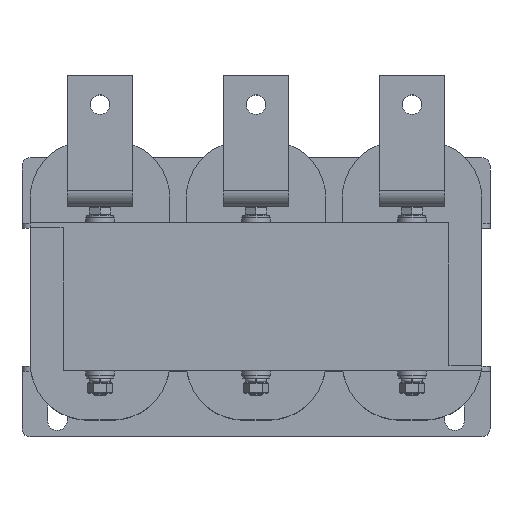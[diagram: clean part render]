
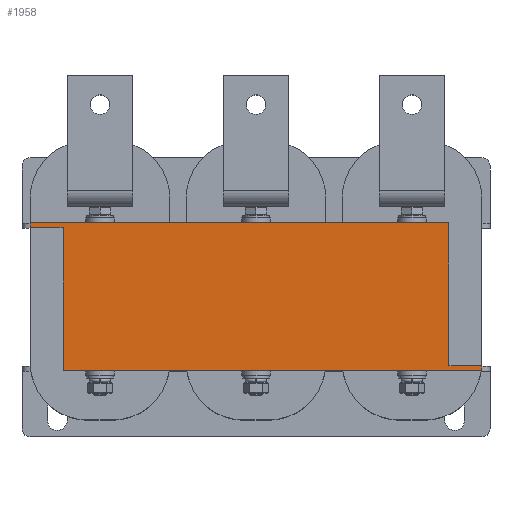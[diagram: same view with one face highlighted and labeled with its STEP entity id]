
A CAD part, top view. The second image highlights one B-rep face of the part: STEP entity #1958.
In plain terms, the highlighted planar face has unit normal (0, 0, 1).
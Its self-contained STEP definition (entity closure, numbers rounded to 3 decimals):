
#1958=ADVANCED_FACE('',(#2667),#2669,.T.);
#2667=FACE_BOUND('',#2668,.T.);
#2668=EDGE_LOOP('',(#3516,#3517,#3518,#3519,#3520,#3521,#3522,#3523));
#2669=PLANE('',#2670);
#2670=AXIS2_PLACEMENT_3D('',#2671,#2672,#2673);
#2671=CARTESIAN_POINT('',(0.,0.,47.));
#2672=DIRECTION('',(0.,0.,1.));
#2673=DIRECTION('',(-1.,0.,0.));
#3516=ORIENTED_EDGE('',*,*,#3920,.T.);
#3517=ORIENTED_EDGE('',*,*,#3939,.T.);
#3518=ORIENTED_EDGE('',*,*,#3909,.T.);
#3519=ORIENTED_EDGE('',*,*,#3940,.T.);
#3520=ORIENTED_EDGE('',*,*,#3901,.T.);
#3521=ORIENTED_EDGE('',*,*,#3941,.T.);
#3522=ORIENTED_EDGE('',*,*,#3890,.T.);
#3523=ORIENTED_EDGE('',*,*,#3938,.T.);
#3890=EDGE_CURVE('',#4304,#4302,#4305,.T.);
#3901=EDGE_CURVE('',#4326,#4324,#4327,.T.);
#3909=EDGE_CURVE('',#4342,#4340,#4343,.T.);
#3920=EDGE_CURVE('',#4364,#4362,#4365,.T.);
#3938=EDGE_CURVE('',#4302,#4364,#4387,.T.);
#3939=EDGE_CURVE('',#4362,#4342,#4388,.T.);
#3940=EDGE_CURVE('',#4340,#4326,#4389,.T.);
#3941=EDGE_CURVE('',#4324,#4304,#4390,.T.);
#4302=VERTEX_POINT('',#5168);
#4304=VERTEX_POINT('',#5172);
#4305=LINE('',#5173,#5174);
#4324=VERTEX_POINT('',#5217);
#4326=VERTEX_POINT('',#5221);
#4327=LINE('',#5222,#5223);
#4340=VERTEX_POINT('',#5251);
#4342=VERTEX_POINT('',#5255);
#4343=LINE('',#5256,#5257);
#4362=VERTEX_POINT('',#5300);
#4364=VERTEX_POINT('',#5304);
#4365=LINE('',#5305,#5306);
#4387=LINE('',#5365,#5366);
#4388=LINE('',#5368,#5369);
#4389=LINE('',#5371,#5372);
#4390=LINE('',#5374,#5375);
#5168=CARTESIAN_POINT('',(-137.5,45.,47.));
#5172=CARTESIAN_POINT('',(117.5,45.,47.));
#5173=CARTESIAN_POINT('',(117.5,45.,47.));
#5174=VECTOR('',#5175,1.);
#5175=DIRECTION('',(-1.,0.,0.));
#5217=CARTESIAN_POINT('',(117.5,-42.,47.));
#5221=CARTESIAN_POINT('',(137.5,-42.,47.));
#5222=CARTESIAN_POINT('',(137.5,-42.,47.));
#5223=VECTOR('',#5224,1.);
#5224=DIRECTION('',(-1.,0.,0.));
#5251=CARTESIAN_POINT('',(137.5,-45.,47.));
#5255=CARTESIAN_POINT('',(-117.5,-45.,47.));
#5256=CARTESIAN_POINT('',(-117.5,-45.,47.));
#5257=VECTOR('',#5258,1.);
#5258=DIRECTION('',(1.,0.,0.));
#5300=CARTESIAN_POINT('',(-117.5,42.,47.));
#5304=CARTESIAN_POINT('',(-137.5,42.,47.));
#5305=CARTESIAN_POINT('',(-137.5,42.,47.));
#5306=VECTOR('',#5307,1.);
#5307=DIRECTION('',(1.,0.,0.));
#5365=CARTESIAN_POINT('',(-137.5,45.,47.));
#5366=VECTOR('',#5367,1.);
#5367=DIRECTION('',(0.,-1.,0.));
#5368=CARTESIAN_POINT('',(-117.5,42.,47.));
#5369=VECTOR('',#5370,1.);
#5370=DIRECTION('',(0.,-1.,0.));
#5371=CARTESIAN_POINT('',(137.5,-45.,47.));
#5372=VECTOR('',#5373,1.);
#5373=DIRECTION('',(0.,1.,0.));
#5374=CARTESIAN_POINT('',(117.5,-42.,47.));
#5375=VECTOR('',#5376,1.);
#5376=DIRECTION('',(0.,1.,0.));
